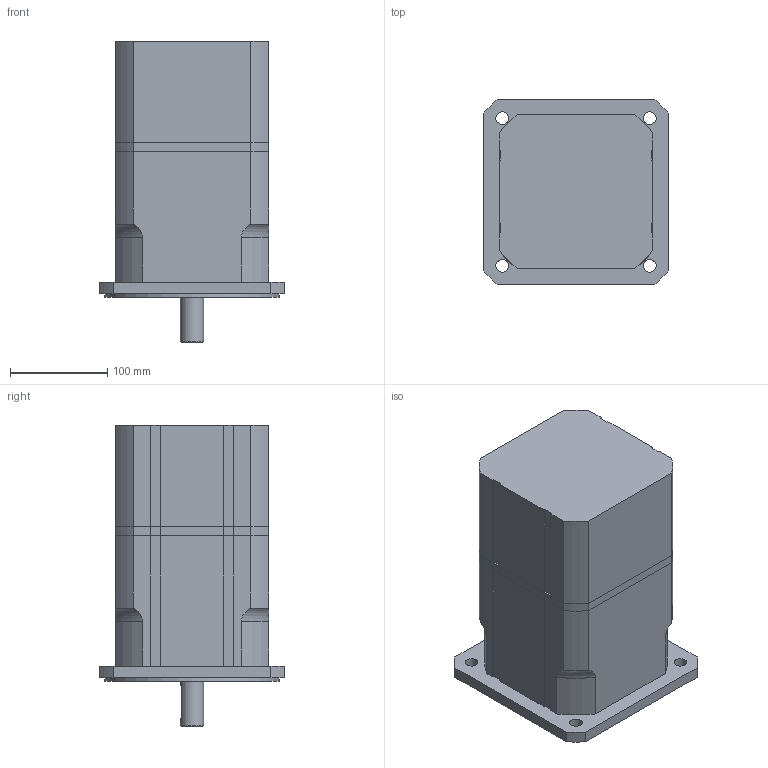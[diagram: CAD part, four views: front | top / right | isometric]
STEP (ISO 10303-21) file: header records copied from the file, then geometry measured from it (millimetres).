
FILE_DESCRIPTION(/* description */ ('Alibre Inc.'),/* implementation_level */ '2;1');
FILE_NAME(/* name */ 'export0',/* time_stamp */ '2011-12-07T14:41:15+01:00',/* author */ (''),/* organization */ (''),/* preprocessor_version */ 'ST-DEVELOPER v12',/* originating_system */ 'Alibre',/* authorisation */ '');
FILE_SCHEMA (('ALIBRE_SCHEMA','CONFIG_CONTROL_DESIGN'));
Length unit declared in the file: millimetre
Products named in the file (6): ID_1; ID_2
Bounding box: 190 x 190 x 310 mm (x, y, z)
Volume: 7100374.7 mm3; surface area: 337311.8 mm2
Topology: 5 solids, 5 shells, 178 faces, 469 edges, 311 vertices
Faces by surface type: plane 89, cylinder 77, cone 7, torus 4, bspline 1
Full cylindrical faces by diameter (mm): 2.7 x4, 6.647 x1, 13 x4, 20 x5, 22 x2, 24 x1, 25 x1, 180 x1
Entity records: 21683 total; most frequent: CARTESIAN_POINT 4712, DIRECTION 2610, ORIENTED_EDGE 2604, EDGE_CURVE 1302, AXIS2_PLACEMENT_3D 982, VECTOR 935, VERTEX_POINT 914, LINE 879
